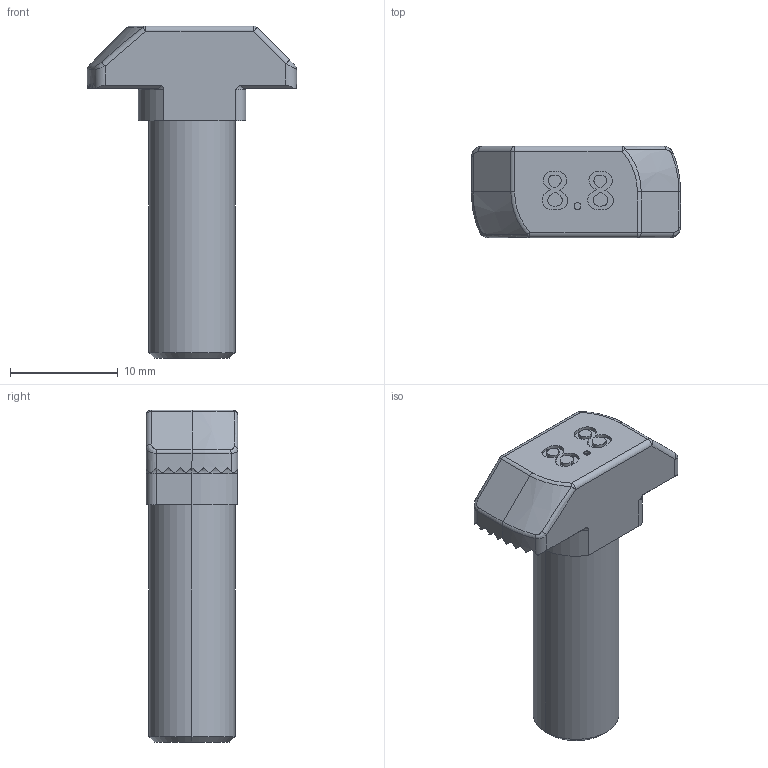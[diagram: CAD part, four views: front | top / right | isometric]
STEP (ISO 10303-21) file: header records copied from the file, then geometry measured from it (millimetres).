
FILE_DESCRIPTION (( 'STEP AP214' ), '1' );
FILE_NAME ('096hk1030m0825.STEP', '2018-04-05T08:11:58', ( '' ), ( '' ), 'SwSTEP 2.0', 'SolidWorks 2017', '' );
FILE_SCHEMA (( 'AUTOMOTIVE_DESIGN' ));
Length unit declared in the file: millimetre
Products named in the file (1): 096hk1030m0825
Bounding box: 19.4 x 8.5 x 30.8 mm (x, y, z)
Volume: 2130.3 mm3; surface area: 1239.1 mm2
Topology: 1 solids, 1 shells, 167 faces, 436 edges, 276 vertices
Faces by surface type: plane 55, cylinder 54, bspline 42, torus 8, cone 4, sphere 4
Entity records: 7348 total; most frequent: CARTESIAN_POINT 3736, ORIENTED_EDGE 864, DIRECTION 548, EDGE_CURVE 432, VERTEX_POINT 276, AXIS2_PLACEMENT_3D 188, EDGE_LOOP 176, LINE 172
